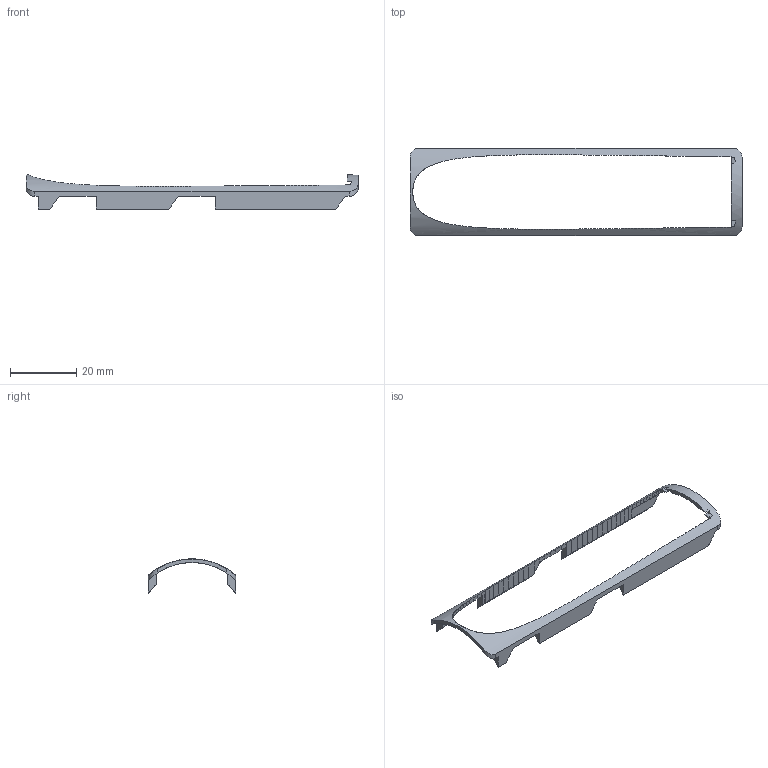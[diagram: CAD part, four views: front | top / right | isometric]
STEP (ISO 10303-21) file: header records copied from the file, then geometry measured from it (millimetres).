
FILE_DESCRIPTION(('SkyG Speed 90B - revision C6B-16 - 2026-10-13','WF-wing-window-filler'),'2;1');
FILE_NAME('WF-wing-window-filler_C6B-16','2026-10-13T19:26:18',('Author'),( 'Open CASCADE'),'Open CASCADE STEP processor 7.9','Open CASCADE 7.9' ,'Unknown');
FILE_SCHEMA(('AUTOMOTIVE_DESIGN { 1 0 10303 214 1 1 1 1 }'));
Length unit declared in the file: millimetre
Products named in the file (1): WF-wing-window-filler C6B-16
Bounding box: 100.4 x 26.4 x 10.35 mm (x, y, z)
Volume: 1866.9 mm3; surface area: 3236.7 mm2
Topology: 1 solids, 1 shells, 168 faces, 500 edges, 333 vertices
Faces by surface type: plane 135, cylinder 15, bspline 12, cone 6
Entity records: 26728 total; most frequent: CARTESIAN_POINT 17388, DIRECTION 1640, ORIENTED_EDGE 1000, PCURVE 1000, DEFINITIONAL_REPRESENTATION 1000, EDGE_CURVE 500, SURFACE_CURVE 500, ELLIPSE 484
